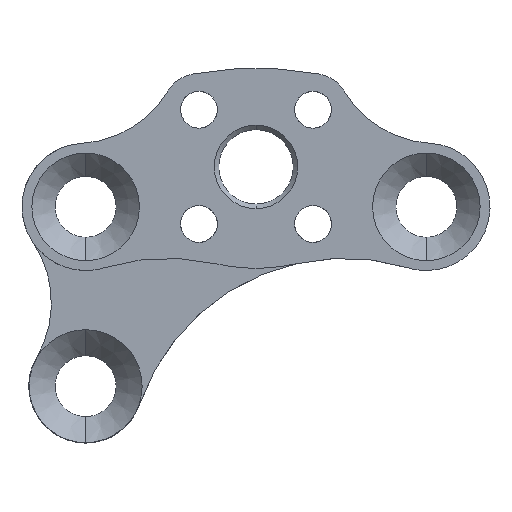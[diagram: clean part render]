
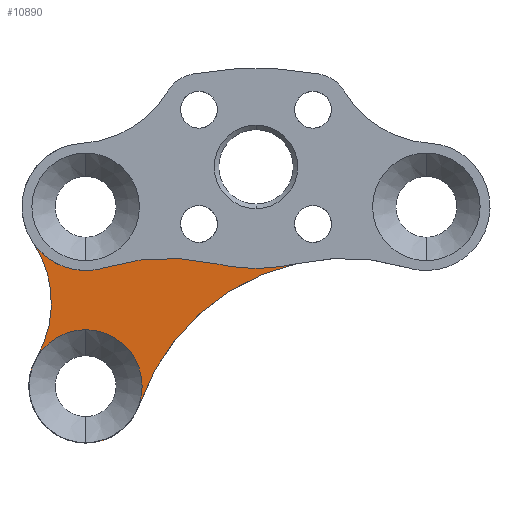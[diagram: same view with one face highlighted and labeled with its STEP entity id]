
A CAD part, front view. The second image highlights one B-rep face of the part: STEP entity #10890.
In plain terms, the highlighted planar face has unit normal (0, -1, 0).
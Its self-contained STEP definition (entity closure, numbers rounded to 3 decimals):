
#95 = DIRECTION ( 'NONE',  ( 0., 1., 0. ) ) ;
#257 = EDGE_CURVE ( 'NONE', #6275, #4472, #1724, .T. ) ;
#437 = DIRECTION ( 'NONE',  ( 0., 0., -1. ) ) ;
#599 = AXIS2_PLACEMENT_3D ( 'NONE', #3211, #2455, #7245 ) ;
#658 = CARTESIAN_POINT ( 'NONE',  ( -9.5, 1., -12.23 ) ) ;
#695 = CIRCLE ( 'NONE', #9359, 3.175 ) ;
#781 = CIRCLE ( 'NONE', #7838, 6. ) ;
#793 = VERTEX_POINT ( 'NONE', #4456 ) ;
#811 = CARTESIAN_POINT ( 'NONE',  ( 0., 1., -5.656 ) ) ;
#812 = ORIENTED_EDGE ( 'NONE', *, *, #9811, .T. ) ;
#871 = DIRECTION ( 'NONE',  ( 0., -1., 0. ) ) ;
#913 = DIRECTION ( 'NONE',  ( 0., 1., 0. ) ) ;
#1085 = CIRCLE ( 'NONE', #8765, 3.15 ) ;
#1550 = EDGE_CURVE ( 'NONE', #1610, #1916, #6695, .T. ) ;
#1610 = VERTEX_POINT ( 'NONE', #811 ) ;
#1626 = VERTEX_POINT ( 'NONE', #7482 ) ;
#1724 = CIRCLE ( 'NONE', #4338, 3.55 ) ;
#1916 = VERTEX_POINT ( 'NONE', #12351 ) ;
#1923 = EDGE_CURVE ( 'NONE', #10011, #10145, #781, .T. ) ;
#2120 = AXIS2_PLACEMENT_3D ( 'NONE', #3737, #913, #10623 ) ;
#2445 = DIRECTION ( 'NONE',  ( 0., 1., 0. ) ) ;
#2455 = DIRECTION ( 'NONE',  ( 0., -1., 0. ) ) ;
#2586 = DIRECTION ( 'NONE',  ( 0., 1., 0. ) ) ;
#2621 = CIRCLE ( 'NONE', #4622, 12.083 ) ;
#2696 = CIRCLE ( 'NONE', #9763, 12.083 ) ;
#2866 = ORIENTED_EDGE ( 'NONE', *, *, #9627, .T. ) ;
#2887 = DIRECTION ( 'NONE',  ( 0., 1., 0. ) ) ;
#3039 = CARTESIAN_POINT ( 'NONE',  ( -9.5, 1., -15.38 ) ) ;
#3119 = CARTESIAN_POINT ( 'NONE',  ( 4.933, 1., -17.181 ) ) ;
#3211 = CARTESIAN_POINT ( 'NONE',  ( -9.5, 1., -12.23 ) ) ;
#3229 = CARTESIAN_POINT ( 'NONE',  ( -12.237, 1., -10.621 ) ) ;
#3307 = EDGE_LOOP ( 'NONE', ( #7280, #7295 ) ) ;
#3530 = DIRECTION ( 'NONE',  ( 0., 0., -1. ) ) ;
#3680 = VERTEX_POINT ( 'NONE', #7339 ) ;
#3694 = EDGE_CURVE ( 'NONE', #1626, #7658, #11401, .T. ) ;
#3703 = CARTESIAN_POINT ( 'NONE',  ( -17.41, 1., -7.581 ) ) ;
#3737 = CARTESIAN_POINT ( 'NONE',  ( -9.5, 1., -2.23 ) ) ;
#3869 = ORIENTED_EDGE ( 'NONE', *, *, #1923, .T. ) ;
#3880 = ORIENTED_EDGE ( 'NONE', *, *, #257, .T. ) ;
#4309 = CIRCLE ( 'NONE', #7329, 3.175 ) ;
#4338 = AXIS2_PLACEMENT_3D ( 'NONE', #12299, #2586, #3530 ) ;
#4456 = CARTESIAN_POINT ( 'NONE',  ( -9.5, 1., -15.405 ) ) ;
#4472 = VERTEX_POINT ( 'NONE', #10737 ) ;
#4514 = CIRCLE ( 'NONE', #2120, 3.55 ) ;
#4622 = AXIS2_PLACEMENT_3D ( 'NONE', #11106, #6182, #5286 ) ;
#4736 = DIRECTION ( 'NONE',  ( 0., 0., -1. ) ) ;
#4932 = CARTESIAN_POINT ( 'NONE',  ( -8.463, 1., -5.625 ) ) ;
#5139 = ORIENTED_EDGE ( 'NONE', *, *, #8111, .T. ) ;
#5286 = DIRECTION ( 'NONE',  ( 0., 0., 1. ) ) ;
#5625 = DIRECTION ( 'NONE',  ( 0., 0., -1. ) ) ;
#6135 = CARTESIAN_POINT ( 'NONE',  ( -12.44, 1., -4.219 ) ) ;
#6182 = DIRECTION ( 'NONE',  ( 0., -1., 0. ) ) ;
#6236 = CIRCLE ( 'NONE', #9465, 10. ) ;
#6243 = FACE_OUTER_BOUND ( 'NONE', #11135, .T. ) ;
#6275 = VERTEX_POINT ( 'NONE', #4932 ) ;
#6525 = EDGE_CURVE ( 'NONE', #1916, #6275, #2621, .T. ) ;
#6671 = CARTESIAN_POINT ( 'NONE',  ( -9.5, 1., -12.23 ) ) ;
#6695 = CIRCLE ( 'NONE', #9911, 10. ) ;
#6708 = CARTESIAN_POINT ( 'NONE',  ( 0., 1., 4.344 ) ) ;
#6846 = DIRECTION ( 'NONE',  ( 0., 0., -1. ) ) ;
#7245 = DIRECTION ( 'NONE',  ( 0., 0., -1. ) ) ;
#7280 = ORIENTED_EDGE ( 'NONE', *, *, #10484, .F. ) ;
#7295 = ORIENTED_EDGE ( 'NONE', *, *, #3694, .F. ) ;
#7329 = AXIS2_PLACEMENT_3D ( 'NONE', #6671, #871, #8621 ) ;
#7339 = CARTESIAN_POINT ( 'NONE',  ( 2.234, 1., -5.403 ) ) ;
#7402 = DIRECTION ( 'NONE',  ( 0., 0., -1. ) ) ;
#7482 = CARTESIAN_POINT ( 'NONE',  ( -9.5, 1., -9.08 ) ) ;
#7623 = CARTESIAN_POINT ( 'NONE',  ( -9.5, 1., -12.23 ) ) ;
#7658 = VERTEX_POINT ( 'NONE', #3039 ) ;
#7678 = ORIENTED_EDGE ( 'NONE', *, *, #1550, .T. ) ;
#7775 = AXIS2_PLACEMENT_3D ( 'NONE', #658, #11192, #7402 ) ;
#7838 = AXIS2_PLACEMENT_3D ( 'NONE', #3703, #2887, #8629 ) ;
#8016 = FACE_BOUND ( 'NONE', #3307, .T. ) ;
#8111 = EDGE_CURVE ( 'NONE', #4472, #10011, #4514, .T. ) ;
#8420 = VERTEX_POINT ( 'NONE', #8977 ) ;
#8594 = DIRECTION ( 'NONE',  ( 0., 1., 0. ) ) ;
#8621 = DIRECTION ( 'NONE',  ( 0., 0., -1. ) ) ;
#8629 = DIRECTION ( 'NONE',  ( 0., 0., -1. ) ) ;
#8765 = AXIS2_PLACEMENT_3D ( 'NONE', #11301, #9350, #4736 ) ;
#8977 = CARTESIAN_POINT ( 'NONE',  ( -6.497, 1., -13.26 ) ) ;
#9220 = EDGE_CURVE ( 'NONE', #10145, #793, #695, .T. ) ;
#9262 = ORIENTED_EDGE ( 'NONE', *, *, #9220, .T. ) ;
#9350 = DIRECTION ( 'NONE',  ( 0., -1., 0. ) ) ;
#9359 = AXIS2_PLACEMENT_3D ( 'NONE', #7623, #11479, #11544 ) ;
#9465 = AXIS2_PLACEMENT_3D ( 'NONE', #6708, #8594, #5625 ) ;
#9627 = EDGE_CURVE ( 'NONE', #793, #8420, #4309, .T. ) ;
#9763 = AXIS2_PLACEMENT_3D ( 'NONE', #3119, #95, #6846 ) ;
#9811 = EDGE_CURVE ( 'NONE', #8420, #3680, #2696, .T. ) ;
#9911 = AXIS2_PLACEMENT_3D ( 'NONE', #12154, #2445, #437 ) ;
#10011 = VERTEX_POINT ( 'NONE', #6135 ) ;
#10145 = VERTEX_POINT ( 'NONE', #3229 ) ;
#10484 = EDGE_CURVE ( 'NONE', #7658, #1626, #1085, .T. ) ;
#10506 = ORIENTED_EDGE ( 'NONE', *, *, #12164, .T. ) ;
#10623 = DIRECTION ( 'NONE',  ( 0., 0., -1. ) ) ;
#10737 = CARTESIAN_POINT ( 'NONE',  ( -9.5, 1., -5.78 ) ) ;
#10890 = ADVANCED_FACE ( 'NONE', ( #8016, #6243 ), #11916, .T. ) ;
#11106 = CARTESIAN_POINT ( 'NONE',  ( -4.933, 1., -17.181 ) ) ;
#11135 = EDGE_LOOP ( 'NONE', ( #9262, #2866, #812, #10506, #7678, #12141, #3880, #5139, #3869 ) ) ;
#11192 = DIRECTION ( 'NONE',  ( 0., -1., 0. ) ) ;
#11301 = CARTESIAN_POINT ( 'NONE',  ( -9.5, 1., -12.23 ) ) ;
#11401 = CIRCLE ( 'NONE', #7775, 3.15 ) ;
#11479 = DIRECTION ( 'NONE',  ( 0., -1., 0. ) ) ;
#11544 = DIRECTION ( 'NONE',  ( 0., 0., -1. ) ) ;
#11916 = PLANE ( 'NONE',  #599 ) ;
#12141 = ORIENTED_EDGE ( 'NONE', *, *, #6525, .T. ) ;
#12154 = CARTESIAN_POINT ( 'NONE',  ( 0., 1., 4.344 ) ) ;
#12164 = EDGE_CURVE ( 'NONE', #3680, #1610, #6236, .T. ) ;
#12299 = CARTESIAN_POINT ( 'NONE',  ( -9.5, 1., -2.23 ) ) ;
#12351 = CARTESIAN_POINT ( 'NONE',  ( -2.234, 1., -5.403 ) ) ;
